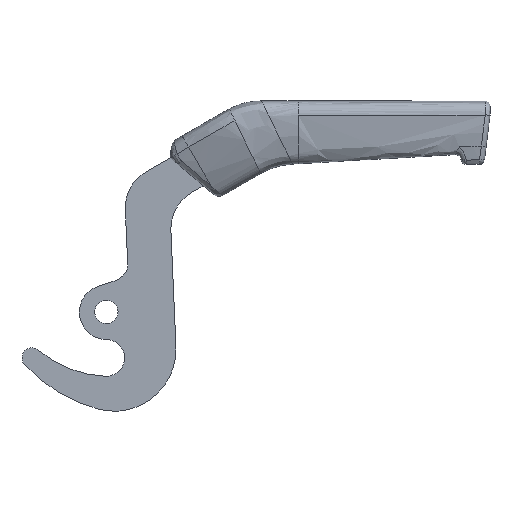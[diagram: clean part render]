
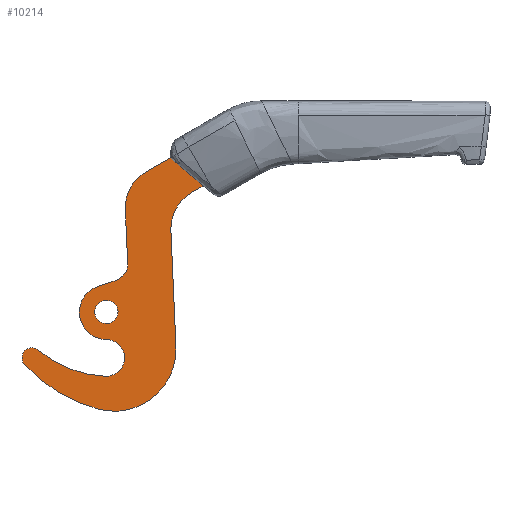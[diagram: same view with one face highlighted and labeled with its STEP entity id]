
A CAD part, front view. The second image highlights one B-rep face of the part: STEP entity #10214.
In plain terms, the highlighted planar face has unit normal (0, -1, 0).
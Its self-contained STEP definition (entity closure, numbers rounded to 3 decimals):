
#10040=CARTESIAN_POINT('',(-19.037,-3.,-53.479));
#10041=DIRECTION('',(0.103,0.,0.995));
#10042=DIRECTION('',(0.,-1.,0.));
#10043=AXIS2_PLACEMENT_3D('',#10040,#10042,#10041);
#10044=PLANE('',#10043);
#10045=CARTESIAN_POINT('',(-15.135,-3.,-52.946));
#10046=VERTEX_POINT('',#10045);
#10047=CARTESIAN_POINT('',(-19.257,-3.,-58.908));
#10048=VERTEX_POINT('',#10047);
#10049=CARTESIAN_POINT('',(-21.129,-3.,-53.208));
#10050=DIRECTION('',(0.999,0.,0.044));
#10051=DIRECTION('',(0.,1.,0.));
#10052=AXIS2_PLACEMENT_3D('',#10049,#10051,#10050);
#10053=CIRCLE('',#10052,6.);
#10054=EDGE_CURVE('',#10046,#10048,#10053,.T.);
#10055=ORIENTED_EDGE('E154',*,*,#10054,.T.);
#10056=CARTESIAN_POINT('',(-25.659,-3.,-61.011));
#10057=VERTEX_POINT('',#10056);
#10058=CARTESIAN_POINT('',(-19.257,-3.,-58.908));
#10059=DIRECTION('',(-0.95,0.,-0.312));
#10060=VECTOR('',#10059,6.738);
#10061=LINE('',#10058,#10060);
#10062=EDGE_CURVE('',#10048,#10057,#10061,.T.);
#10063=ORIENTED_EDGE('E155',*,*,#10062,.T.);
#10064=CARTESIAN_POINT('',(-22.721,-3.,-80.025));
#10065=VERTEX_POINT('',#10064);
#10066=CARTESIAN_POINT('',(-22.616,-3.,-70.275));
#10067=DIRECTION('',(-0.312,0.,0.95));
#10068=DIRECTION('',(0.,-1.,0.));
#10069=AXIS2_PLACEMENT_3D('',#10066,#10068,#10067);
#10070=CIRCLE('',#10069,9.751);
#10071=EDGE_CURVE('',#10057,#10065,#10070,.T.);
#10072=ORIENTED_EDGE('E156',*,*,#10071,.T.);
#10073=CARTESIAN_POINT('',(-23.043,-3.,-93.119));
#10074=VERTEX_POINT('',#10073);
#10075=CARTESIAN_POINT('',(-22.791,-3.,-86.574));
#10076=DIRECTION('',(0.011,0.,1.));
#10077=DIRECTION('',(0.,1.,0.));
#10078=AXIS2_PLACEMENT_3D('',#10075,#10077,#10076);
#10079=CIRCLE('',#10078,6.549);
#10080=EDGE_CURVE('',#10065,#10074,#10079,.T.);
#10081=ORIENTED_EDGE('E157',*,*,#10080,.T.);
#10082=CARTESIAN_POINT('',(-46.903,-3.,-83.838));
#10083=VERTEX_POINT('',#10082);
#10084=CARTESIAN_POINT('',(-21.538,-3.,-53.937));
#10085=DIRECTION('',(-0.038,0.,-0.999));
#10086=DIRECTION('',(0.,1.,0.));
#10087=AXIS2_PLACEMENT_3D('',#10084,#10086,#10085);
#10088=CIRCLE('',#10087,39.211);
#10089=EDGE_CURVE('',#10074,#10083,#10088,.T.);
#10090=ORIENTED_EDGE('E158',*,*,#10089,.T.);
#10091=CARTESIAN_POINT('',(-51.86,-3.,-89.043));
#10092=VERTEX_POINT('',#10091);
#10093=CARTESIAN_POINT('',(-49.232,-3.,-86.584));
#10094=DIRECTION('',(0.647,0.,0.763));
#10095=DIRECTION('',(0.,-1.,0.));
#10096=AXIS2_PLACEMENT_3D('',#10093,#10095,#10094);
#10097=CIRCLE('',#10096,3.6);
#10098=EDGE_CURVE('',#10083,#10092,#10097,.T.);
#10099=ORIENTED_EDGE('E159',*,*,#10098,.T.);
#10100=CARTESIAN_POINT('',(-25.682,-3.,-104.812));
#10101=VERTEX_POINT('',#10100);
#10102=CARTESIAN_POINT('',(-10.972,-3.,-50.779));
#10103=DIRECTION('',(-0.73,0.,-0.683));
#10104=DIRECTION('',(0.,-1.,0.));
#10105=AXIS2_PLACEMENT_3D('',#10102,#10104,#10103);
#10106=CIRCLE('',#10105,56.);
#10107=EDGE_CURVE('',#10092,#10101,#10106,.T.);
#10108=ORIENTED_EDGE('E160',*,*,#10107,.T.);
#10109=CARTESIAN_POINT('',(2.076,-3.,-82.625));
#10110=VERTEX_POINT('',#10109);
#10111=CARTESIAN_POINT('',(-19.903,-3.,-83.585));
#10112=DIRECTION('',(-0.263,0.,-0.965));
#10113=DIRECTION('',(0.,-1.,0.));
#10114=AXIS2_PLACEMENT_3D('',#10111,#10113,#10112);
#10115=CIRCLE('',#10114,22.);
#10116=EDGE_CURVE('',#10101,#10110,#10115,.T.);
#10117=ORIENTED_EDGE('E161',*,*,#10116,.T.);
#10118=CARTESIAN_POINT('',(0.27,-3.,-41.251));
#10119=VERTEX_POINT('',#10118);
#10120=CARTESIAN_POINT('',(2.076,-3.,-82.625));
#10121=DIRECTION('',(-0.044,0.,0.999));
#10122=VECTOR('',#10121,41.414);
#10123=LINE('',#10120,#10122);
#10124=EDGE_CURVE('',#10110,#10119,#10123,.T.);
#10125=ORIENTED_EDGE('E162',*,*,#10124,.T.);
#10126=CARTESIAN_POINT('',(7.755,-3.,-27.606));
#10127=VERTEX_POINT('',#10126);
#10128=CARTESIAN_POINT('',(15.255,-3.,-40.596));
#10129=DIRECTION('',(-0.999,0.,-0.044));
#10130=DIRECTION('',(0.,1.,0.));
#10131=AXIS2_PLACEMENT_3D('',#10128,#10130,#10129);
#10132=CIRCLE('',#10131,15.);
#10133=EDGE_CURVE('',#10119,#10127,#10132,.T.);
#10134=ORIENTED_EDGE('E163',*,*,#10133,.T.);
#10135=CARTESIAN_POINT('',(26.186,-3.,-16.965));
#10136=VERTEX_POINT('',#10135);
#10137=CARTESIAN_POINT('',(7.755,-3.,-27.606));
#10138=DIRECTION('',(0.866,0.,0.5));
#10139=VECTOR('',#10138,21.281);
#10140=LINE('',#10137,#10139);
#10141=EDGE_CURVE('',#10127,#10136,#10140,.T.);
#10142=ORIENTED_EDGE('E164',*,*,#10141,.T.);
#10143=CARTESIAN_POINT('',(36.857,-3.,-13.683));
#10144=VERTEX_POINT('',#10143);
#10145=CARTESIAN_POINT('',(38.686,-3.,-38.616));
#10146=DIRECTION('',(-0.5,0.,0.866));
#10147=DIRECTION('',(0.,1.,0.));
#10148=AXIS2_PLACEMENT_3D('',#10145,#10147,#10146);
#10149=CIRCLE('',#10148,25.);
#10150=EDGE_CURVE('',#10136,#10144,#10149,.T.);
#10151=ORIENTED_EDGE('E165',*,*,#10150,.T.);
#10152=CARTESIAN_POINT('',(36.647,-3.,-2.701));
#10153=VERTEX_POINT('',#10152);
#10154=CARTESIAN_POINT('',(36.455,-3.,-8.198));
#10155=DIRECTION('',(0.073,0.,-0.997));
#10156=DIRECTION('',(0.,-1.,0.));
#10157=AXIS2_PLACEMENT_3D('',#10154,#10156,#10155);
#10158=CIRCLE('',#10157,5.5);
#10159=EDGE_CURVE('',#10144,#10153,#10158,.T.);
#10160=ORIENTED_EDGE('E166',*,*,#10159,.T.);
#10161=CARTESIAN_POINT('',(25.411,-3.,-2.309));
#10162=VERTEX_POINT('',#10161);
#10163=CARTESIAN_POINT('',(36.647,-3.,-2.701));
#10164=DIRECTION('',(-0.999,0.,0.035));
#10165=VECTOR('',#10164,11.243);
#10166=LINE('',#10163,#10165);
#10167=EDGE_CURVE('',#10153,#10162,#10166,.T.);
#10168=ORIENTED_EDGE('E167',*,*,#10167,.T.);
#10169=CARTESIAN_POINT('',(20.062,-3.,-3.642));
#10170=VERTEX_POINT('',#10169);
#10171=CARTESIAN_POINT('',(25.062,-3.,-12.303));
#10172=DIRECTION('',(0.035,0.,0.999));
#10173=DIRECTION('',(0.,-1.,0.));
#10174=AXIS2_PLACEMENT_3D('',#10171,#10173,#10172);
#10175=CIRCLE('',#10174,10.);
#10176=EDGE_CURVE('',#10162,#10170,#10175,.T.);
#10177=ORIENTED_EDGE('E168',*,*,#10176,.T.);
#10178=CARTESIAN_POINT('',(-8.486,-3.,-20.125));
#10179=VERTEX_POINT('',#10178);
#10180=CARTESIAN_POINT('',(20.062,-3.,-3.642));
#10181=DIRECTION('',(-0.866,0.,-0.5));
#10182=VECTOR('',#10181,32.965);
#10183=LINE('',#10180,#10182);
#10184=EDGE_CURVE('',#10170,#10179,#10183,.T.);
#10185=ORIENTED_EDGE('E169',*,*,#10184,.T.);
#10186=CARTESIAN_POINT('',(-15.972,-3.,-33.769));
#10187=VERTEX_POINT('',#10186);
#10188=CARTESIAN_POINT('',(-0.986,-3.,-33.115));
#10189=DIRECTION('',(-0.5,0.,0.866));
#10190=DIRECTION('',(0.,-1.,0.));
#10191=AXIS2_PLACEMENT_3D('',#10188,#10190,#10189);
#10192=CIRCLE('',#10191,15.);
#10193=EDGE_CURVE('',#10179,#10187,#10192,.T.);
#10194=ORIENTED_EDGE('E170',*,*,#10193,.T.);
#10195=CARTESIAN_POINT('',(-15.972,-3.,-33.769));
#10196=DIRECTION('',(0.044,0.,-0.999));
#10197=VECTOR('',#10196,19.195);
#10198=LINE('',#10195,#10197);
#10199=EDGE_CURVE('',#10187,#10046,#10198,.T.);
#10200=ORIENTED_EDGE('E171',*,*,#10199,.T.);
#10201=EDGE_LOOP('',(#10055,#10063,#10072,#10081,#10090,#10099,#10108,#10117,#10125,#10134,#10142,#10151,#10160,#10168,#10177,#10185,#10194,#10200));
#10202=FACE_OUTER_BOUND('',#10201,.T.);
#10203=CARTESIAN_POINT('',(-22.293,-3.,-66.073));
#10204=VERTEX_POINT('',#10203);
#10205=CARTESIAN_POINT('',(-22.721,-3.,-70.201));
#10206=DIRECTION('',(0.103,0.,0.995));
#10207=DIRECTION('',(0.,1.,0.));
#10208=AXIS2_PLACEMENT_3D('',#10205,#10207,#10206);
#10209=CIRCLE('',#10208,4.15);
#10210=EDGE_CURVE('',#10204,#10204,#10209,.T.);
#10211=ORIENTED_EDGE('E172',*,*,#10210,.T.);
#10212=EDGE_LOOP('',(#10211));
#10213=FACE_BOUND('',#10212,.T.);
#10214=ADVANCED_FACE('F55',(#10202,#10213),#10044,.T.);
